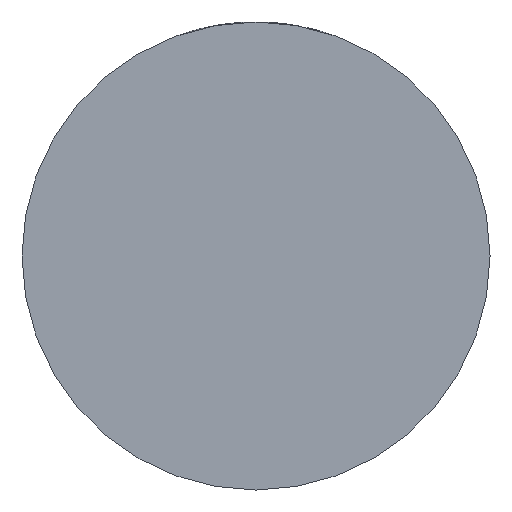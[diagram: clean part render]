
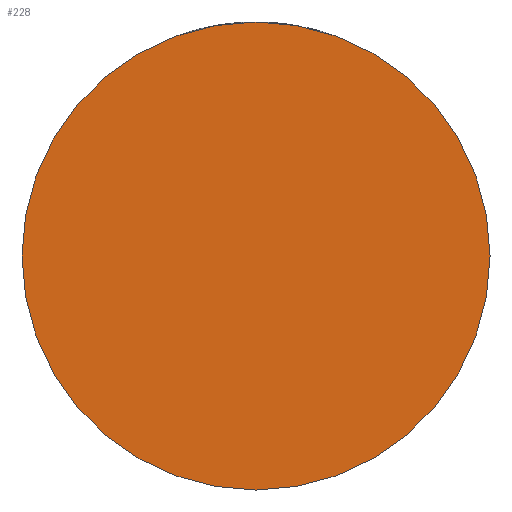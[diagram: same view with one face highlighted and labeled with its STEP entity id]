
A CAD part, front view. The second image highlights one B-rep face of the part: STEP entity #228.
In plain terms, the highlighted planar face has unit normal (0, -1, 0).
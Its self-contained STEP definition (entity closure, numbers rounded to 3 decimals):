
#150 = FACE_OUTER_BOUND ( 'NONE', #1601, .T. ) ;
#228 = ADVANCED_FACE ( 'NONE', ( #150 ), #2790, .T. ) ;
#506 = CIRCLE ( 'NONE', #4083, 32.5 ) ;
#540 = CARTESIAN_POINT ( 'NONE',  ( 0., -26., 0. ) ) ;
#684 = CARTESIAN_POINT ( 'NONE',  ( 32.5, -26., 0. ) ) ;
#822 = EDGE_CURVE ( 'NONE', #2998, #2308, #1272, .T. ) ;
#887 = DIRECTION ( 'NONE',  ( 0., -1., 0. ) ) ;
#1191 = DIRECTION ( 'NONE',  ( 1., 0., 0. ) ) ;
#1272 = CIRCLE ( 'NONE', #1809, 32.5 ) ;
#1366 = CARTESIAN_POINT ( 'NONE',  ( -32.5, -26., 0. ) ) ;
#1537 = AXIS2_PLACEMENT_3D ( 'NONE', #3176, #2471, #1191 ) ;
#1601 = EDGE_LOOP ( 'NONE', ( #2576, #2994 ) ) ;
#1809 = AXIS2_PLACEMENT_3D ( 'NONE', #540, #887, #3170 ) ;
#2124 = DIRECTION ( 'NONE',  ( 0., -1., 0. ) ) ;
#2143 = CARTESIAN_POINT ( 'NONE',  ( 0., -26., 0. ) ) ;
#2308 = VERTEX_POINT ( 'NONE', #1366 ) ;
#2458 = DIRECTION ( 'NONE',  ( 1., 0., 0. ) ) ;
#2471 = DIRECTION ( 'NONE',  ( 0., -1., 0. ) ) ;
#2576 = ORIENTED_EDGE ( 'NONE', *, *, #2739, .T. ) ;
#2739 = EDGE_CURVE ( 'NONE', #2308, #2998, #506, .T. ) ;
#2790 = PLANE ( 'NONE',  #1537 ) ;
#2994 = ORIENTED_EDGE ( 'NONE', *, *, #822, .T. ) ;
#2998 = VERTEX_POINT ( 'NONE', #684 ) ;
#3170 = DIRECTION ( 'NONE',  ( 1., 0., 0. ) ) ;
#3176 = CARTESIAN_POINT ( 'NONE',  ( 0., -26., 0. ) ) ;
#4083 = AXIS2_PLACEMENT_3D ( 'NONE', #2143, #2124, #2458 ) ;
